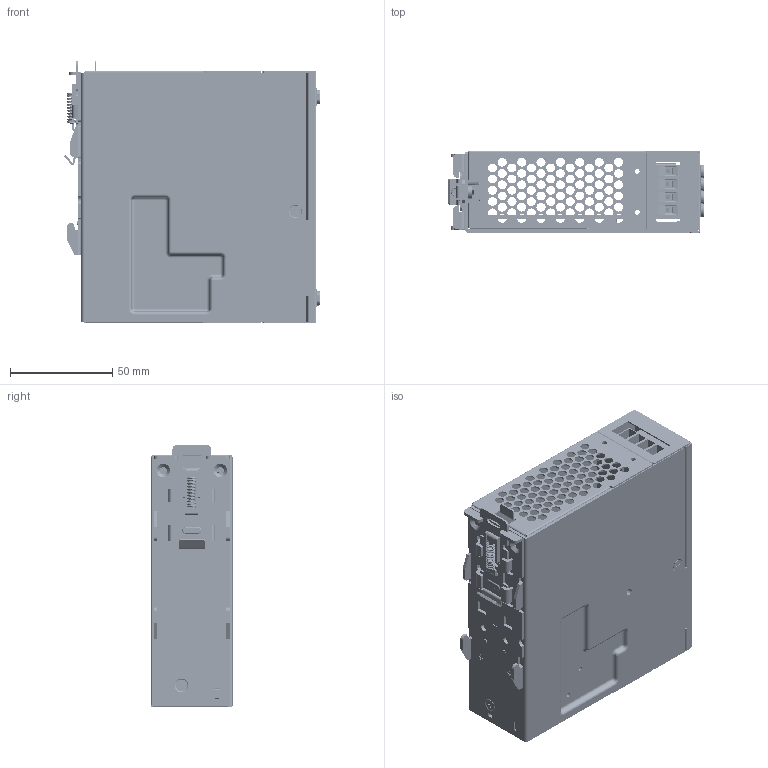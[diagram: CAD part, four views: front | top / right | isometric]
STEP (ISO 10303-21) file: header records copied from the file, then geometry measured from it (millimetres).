
FILE_DESCRIPTION((''),'2;1');
FILE_NAME('DRL-120W02132026','2026-02-13T11:15:09',('EUNICE.HUANG'),(''),'CREO PARAMETRIC BY PTC INC, 2024014','CREO PARAMETRIC BY PTC INC, 2024014','');
FILE_SCHEMA(('AUTOMOTIVE_DESIGN { 1 0 10303 214 1 1 1 1 }'));
Products named in the file (1): DRL-120W02132026
Bounding box: 125.14 x 40.2 x 128.8 mm (x, y, z)
Volume: 92603.3 mm3; surface area: 165371 mm2
Topology: 2 solids, 3 shells, 8013 faces, 22766 edges, 14593 vertices
Faces by surface type: plane 4719, cylinder 2600, bspline 248, torus 206, cone 194, sphere 46
Entity records: 404404 total; most frequent: CARTESIAN_POINT 140456, ORIENTED_EDGE 45304, DIRECTION 41554, EDGE_CURVE 22652, VECTOR 15232, LINE 15232, VERTEX_POINT 14572, AXIS2_PLACEMENT_3D 13161
